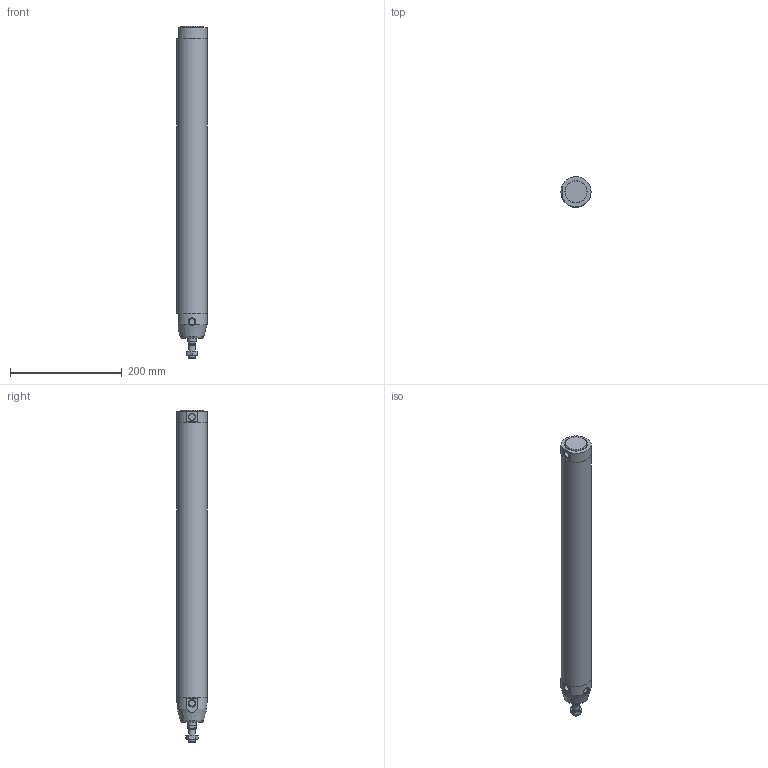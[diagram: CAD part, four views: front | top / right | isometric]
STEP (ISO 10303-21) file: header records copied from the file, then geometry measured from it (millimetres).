
FILE_DESCRIPTION(/* description */ (''),/* implementation_level */ '2;1');
FILE_NAME(/* name */ 'I:\Area Tecnica\Documenti\A-Manieri\_Inventor\12X\12X#E_###_####_#_#\12XAE_050_0450_#_#.stp',/* time_stamp */ '2015-05-08T13:40:56+02:00',/* author */ ('maniean1'),/* organization */ ('Pneumax S.p.A.'),/* preprocessor_version */ 'ST-DEVELOPER v15.2',/* originating_system */ 'Autodesk Inventor 2014',/* authorisation */ '');
FILE_SCHEMA (('AUTOMOTIVE_DESIGN { 1 0 10303 214 3 1 1 }'));
Length unit declared in the file: millimetre
Products named in the file (6): C1250_619-0450; 12X50_622; S12X50_0450; 12X_50_11; 12X50_611; 12XAE_050_0450_#_#
Bounding box: 54 x 54 x 595 mm (x, y, z)
Volume: 476203.7 mm3; surface area: 221229.6 mm2
Topology: 5 solids, 5 shells, 65 faces, 132 edges, 84 vertices
Faces by surface type: plane 33, cylinder 18, cone 13, torus 1
Full cylindrical faces by diameter (mm): 10.2 x1, 10.9 x2, 11.4 x2, 12 x2, 14 x1, 14.1 x2, 15.6 x1, 16 x1, 40 x1, 50 x2, 54 x3
Entity records: 1691 total; most frequent: CARTESIAN_POINT 368, DIRECTION 279, ORIENTED_EDGE 190, AXIS2_PLACEMENT_3D 129, EDGE_LOOP 108, EDGE_CURVE 95, VERTEX_POINT 77, ADVANCED_FACE 65
